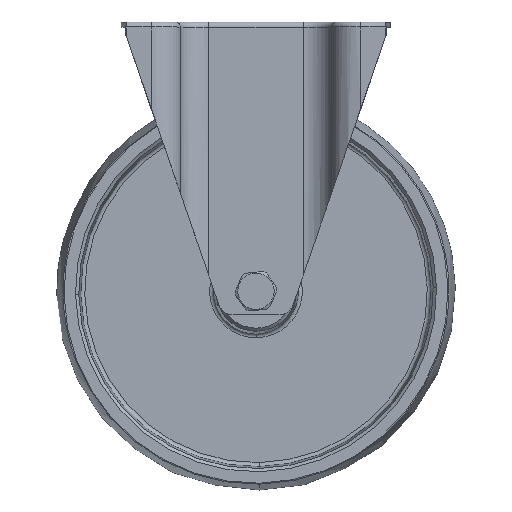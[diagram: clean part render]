
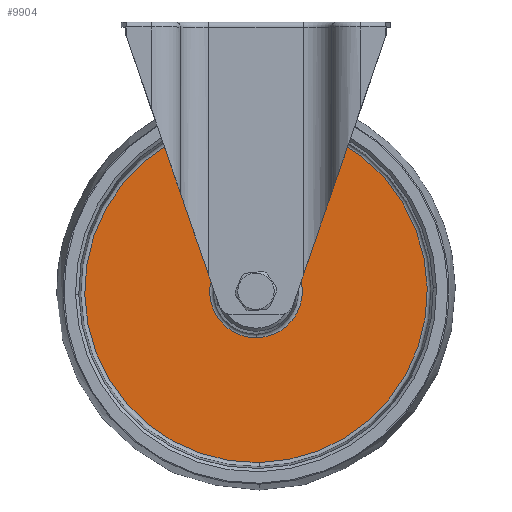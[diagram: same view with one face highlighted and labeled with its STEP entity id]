
A CAD part, top view. The second image highlights one B-rep face of the part: STEP entity #9904.
In plain terms, the highlighted planar face has unit normal (0, 0, 1).
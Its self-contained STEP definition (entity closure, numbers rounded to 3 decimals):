
#228 = CIRCLE ( 'NONE', #10527, 85.923 ) ;
#375 = VERTEX_POINT ( 'NONE', #7249 ) ;
#647 = ORIENTED_EDGE ( 'NONE', *, *, #2297, .T. ) ;
#784 = AXIS2_PLACEMENT_3D ( 'NONE', #3297, #1349, #1482 ) ;
#1091 = CARTESIAN_POINT ( 'NONE',  ( 0., -85.923, 3. ) ) ;
#1168 = EDGE_CURVE ( 'NONE', #375, #3701, #3671, .T. ) ;
#1349 = DIRECTION ( 'NONE',  ( 0., 0., 1. ) ) ;
#1482 = DIRECTION ( 'NONE',  ( 0., 1., 0. ) ) ;
#2297 = EDGE_CURVE ( 'NONE', #7138, #9340, #6609, .T. ) ;
#2910 = CARTESIAN_POINT ( 'NONE',  ( 0., 0., 3. ) ) ;
#2996 = DIRECTION ( 'NONE',  ( 0., 1., 0. ) ) ;
#3192 = ORIENTED_EDGE ( 'NONE', *, *, #3399, .T. ) ;
#3297 = CARTESIAN_POINT ( 'NONE',  ( 0., 0., 3. ) ) ;
#3399 = EDGE_CURVE ( 'NONE', #9340, #7138, #228, .T. ) ;
#3671 = CIRCLE ( 'NONE', #5797, 23.261 ) ;
#3701 = VERTEX_POINT ( 'NONE', #6218 ) ;
#3963 = CARTESIAN_POINT ( 'NONE',  ( 0., 0., 3. ) ) ;
#4492 = EDGE_LOOP ( 'NONE', ( #3192, #647 ) ) ;
#4722 = CIRCLE ( 'NONE', #10956, 23.261 ) ;
#4988 = DIRECTION ( 'NONE',  ( 0., 0., -1. ) ) ;
#5545 = EDGE_CURVE ( 'NONE', #3701, #375, #4722, .T. ) ;
#5731 = FACE_OUTER_BOUND ( 'NONE', #4492, .T. ) ;
#5741 = DIRECTION ( 'NONE',  ( 0., 0., 1. ) ) ;
#5782 = FACE_BOUND ( 'NONE', #6457, .T. ) ;
#5797 = AXIS2_PLACEMENT_3D ( 'NONE', #2910, #9589, #7688 ) ;
#6218 = CARTESIAN_POINT ( 'NONE',  ( 0., -23.261, 3. ) ) ;
#6457 = EDGE_LOOP ( 'NONE', ( #6724, #10456 ) ) ;
#6609 = CIRCLE ( 'NONE', #784, 85.923 ) ;
#6724 = ORIENTED_EDGE ( 'NONE', *, *, #1168, .T. ) ;
#7138 = VERTEX_POINT ( 'NONE', #1091 ) ;
#7249 = CARTESIAN_POINT ( 'NONE',  ( 0., 23.261, 3. ) ) ;
#7436 = CARTESIAN_POINT ( 'NONE',  ( 0., 0., 3. ) ) ;
#7660 = DIRECTION ( 'NONE',  ( 0., 1., 0. ) ) ;
#7688 = DIRECTION ( 'NONE',  ( 0., 1., 0. ) ) ;
#7757 = CARTESIAN_POINT ( 'NONE',  ( 0., 85.923, 3. ) ) ;
#8521 = CARTESIAN_POINT ( 'NONE',  ( 0., 87.821, 3. ) ) ;
#8575 = PLANE ( 'NONE',  #10395 ) ;
#9316 = DIRECTION ( 'NONE',  ( 0., 0., -1. ) ) ;
#9340 = VERTEX_POINT ( 'NONE', #7757 ) ;
#9589 = DIRECTION ( 'NONE',  ( 0., 0., -1. ) ) ;
#9904 = ADVANCED_FACE ( 'NONE', ( #5782, #5731 ), #8575, .F. ) ;
#10246 = DIRECTION ( 'NONE',  ( 0., 1., 0. ) ) ;
#10395 = AXIS2_PLACEMENT_3D ( 'NONE', #8521, #4988, #7660 ) ;
#10456 = ORIENTED_EDGE ( 'NONE', *, *, #5545, .T. ) ;
#10527 = AXIS2_PLACEMENT_3D ( 'NONE', #7436, #5741, #10246 ) ;
#10956 = AXIS2_PLACEMENT_3D ( 'NONE', #3963, #9316, #2996 ) ;
